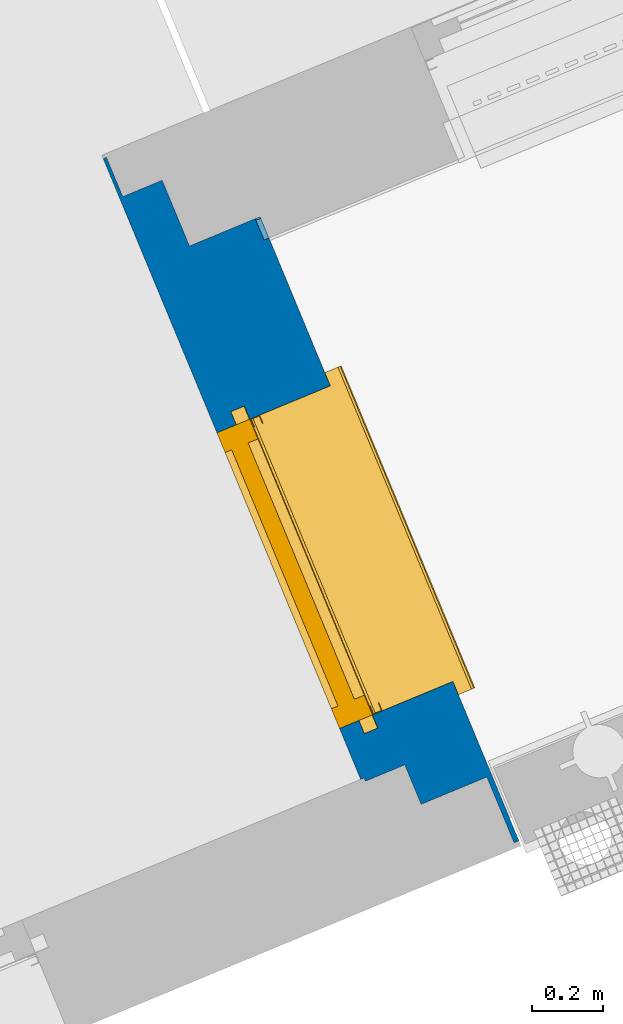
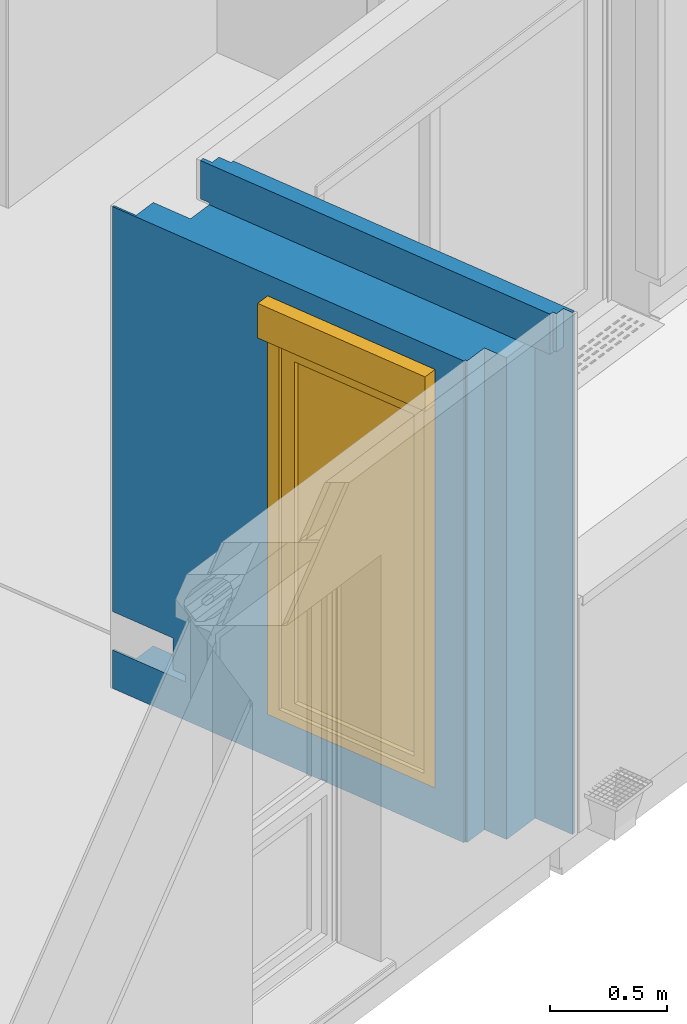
# One storey, part 4 of 91: 1 wall, 1 window, 1 opening.
"""IFC2X3 building model written with IfcOpenShell, lengths in metres."""

from ifc_helpers import new_model, entity, si_unit, converted_unit, derived_unit, money_unit, direction, frame, origin_with_axes, place, context, subcontext, project, spatial, open_shell, faceted_brep, surface_model, source, transform, mapped, material, material_list, type_object, element, fill, save


model = new_model("IFC2X3")

# Units and contexts
model_context = context("Model", 3, precision=1e-05, world=origin_with_axes(), true_north=direction((0.0, 1.0)))
body_context = subcontext(model_context, "Body", "Model", "MODEL_VIEW")
ifc_project = project(units=[si_unit("LENGTHUNIT", "METRE"), si_unit("AREAUNIT", "SQUARE_METRE"), si_unit("VOLUMEUNIT", "CUBIC_METRE"), converted_unit("PLANEANGLEUNIT", "DEGREE", entity("IfcPlaneAngleMeasure", 0.0174532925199), si_unit("PLANEANGLEUNIT", "RADIAN"), dimensions=[0, 0, 0, 0, 0, 0, 0]), si_unit("SOLIDANGLEUNIT", "STERADIAN"), money_unit("EUR"), converted_unit("TIMEUNIT", "Year", entity("IfcTimeMeasure", 31556926.0), si_unit("TIMEUNIT", "SECOND"), dimensions=[0, 0, 1, 0, 0, 0, 0]), si_unit("MASSUNIT", "GRAM", prefix="KILO"), si_unit("THERMODYNAMICTEMPERATUREUNIT", "DEGREE_CELSIUS"), si_unit("LUMINOUSINTENSITYUNIT", "LUMEN"), si_unit("ENERGYUNIT", "JOULE", prefix="MEGA"), derived_unit("THERMALCONDUCTANCEUNIT", [(si_unit("POWERUNIT", "WATT"), 1), (si_unit("LENGTHUNIT", "METRE"), -1), (si_unit("THERMODYNAMICTEMPERATUREUNIT", "KELVIN"), -1)]), derived_unit("SPECIFICHEATCAPACITYUNIT", [(si_unit("ENERGYUNIT", "JOULE"), 1), (si_unit("MASSUNIT", "GRAM", prefix="KILO"), -1), (si_unit("THERMODYNAMICTEMPERATUREUNIT", "KELVIN"), -1)]), derived_unit("MASSDENSITYUNIT", [(si_unit("MASSUNIT", "GRAM", prefix="KILO"), 1), (si_unit("VOLUMEUNIT", "CUBIC_METRE"), -1)])], contexts=[model_context])

# Site, building, storey
site_placement = place(None, origin_with_axes())
site = spatial("IfcSite", under=ifc_project, at=site_placement, Name="Site", CompositionType="ELEMENT")
building_placement = place(site_placement, origin_with_axes())
building = spatial("IfcBuilding", under=site, at=building_placement, Name="Bâtiment", CompositionType="ELEMENT")
storey_placement = place(building_placement, frame((0.0, 0.0, 5.44), z_axis=(0.0, 0.0, 1.0), x_axis=(1.0, 0.0, 0.0)))
storey = spatial("IfcBuildingStorey", under=building, at=storey_placement, Name="R+2", CompositionType="ELEMENT", Elevation=5.44)

# Wall, opening, window
ifc_material_1 = material(Name="Finition int - Plaque de plâtre")
ifc_material_2 = material(Name="Isolation - Polystyrène extrudé")
ifc_material_3 = material(Name="Bloc ELITHERM")
ifc_material_4 = material(Name="Isolation - Polystyrène expansé")
ifc_material_5 = material(Name="Mortier")
ifc_material_6 = material(Name="Béton cellulaire")
ifc_material_7 = material(Name="Finition ext - Crépis")
ifc_material_list = material_list([ifc_material_1, ifc_material_2, ifc_material_3, ifc_material_4, ifc_material_5, ifc_material_6, ifc_material_7])
wall_type = type_object("IfcWallType", Name="Mur ALKERN + planelle 21 345 x 2720", PredefinedType="USERDEFINED")
wall_placement = place(storey_placement, frame((-27.3385744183, -27.0795519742, 0.0), z_axis=(0.0, 0.0, 1.0), x_axis=(-0.383112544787, 0.923701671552, 0.0)))
wall = element("IfcWall", 1, at=wall_placement, inside=storey, type_object=wall_type, material=ifc_material_list, Name="Mue bloc ALKERN isolé", ObjectType="SOLIDWALL", context=body_context, shape_type="Brep", body=[
    faceted_brep([(1.84231110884, 0.335000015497, 0.2), (1.84231110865, 0.335000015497, 0.229999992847), (1.84231110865, 0.335000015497, 0.235000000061), (1.9100000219, 0.335000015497, 0.235000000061), (1.9100000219, 0.335000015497, 0.4), (1.91500002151, 0.335000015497, 0.4), (2.11499999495, 0.335000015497, 0.399999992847), (2.23500001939, 0.335000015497, 0.399999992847), (2.23500001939, 0.335000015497, 2.51), (0.344999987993, 0.335000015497, 2.51), (0.344999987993, 0.335000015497, 0.0), (2.23500001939, 0.335000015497, 0.0), (2.23500001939, 0.335000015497, 0.109999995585), (2.23500001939, 0.335000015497, 0.2), (2.11499999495, 0.335000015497, 0.2), (1.91500000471, 0.335000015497, 0.2), (1.90500004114, 0.335000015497, 0.200000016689), (1.84731110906, 0.335000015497, 0.2), (1.40000000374, 0.335000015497, 2.4), (1.40000000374, 0.335000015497, 2.22), (1.40000000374, 0.335000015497, 0.22), (0.500000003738, 0.335000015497, 0.22), (0.500000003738, 0.335000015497, 2.22), (0.500000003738, 0.335000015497, 2.4), (1.84231110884, 0.34499998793, 0.2), (1.84231110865, 0.34499998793, 0.229999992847), (1.84231110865, 0.34499998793, 0.235000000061), (1.9100000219, 0.34499998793, 0.235000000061), (1.9100000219, 0.34499998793, 0.4), (1.91500002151, 0.34499998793, 0.4), (2.11499999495, 0.34499998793, 0.399999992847), (2.23500001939, 0.34499998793, 0.399999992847), (2.23500001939, 0.34499998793, 2.51), (0.344999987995, 0.34499998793, 2.51), (0.344999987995, 0.34499998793, 0.0), (2.23500001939, 0.34499998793, 0.0), (2.23500001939, 0.34499998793, 0.109999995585), (2.23500001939, 0.34499998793, 0.2), (2.11499999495, 0.34499998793, 0.2), (1.91500000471, 0.34499998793, 0.2), (1.90500004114, 0.34499998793, 0.200000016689), (1.84731110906, 0.34499998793, 0.2), (1.40000000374, 0.34499998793, 2.4), (1.40000000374, 0.34499998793, 2.22), (1.40000000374, 0.34499998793, 0.22), (0.500000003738, 0.34499998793, 0.22), (0.500000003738, 0.34499998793, 2.22), (0.500000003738, 0.34499998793, 2.4)], [[[0, 1, 2, 3, 4, 5, 6, 7, 8, 9, 10, 11, 12, 13, 14, 15, 16, 17], [18, 19, 20, 21, 22, 23]], [[1, 0, 24, 25]], [[1, 25, 26, 2]], [[2, 26, 27, 3]], [[3, 27, 28, 4]], [[4, 28, 29, 5]], [[29, 30, 6, 5]], [[7, 6, 30, 31]], [[8, 7, 31, 32]], [[32, 33, 9, 8]], [[9, 33, 34, 10]], [[11, 10, 34, 35]], [[12, 11, 35, 36]], [[13, 12, 36, 37]], [[14, 13, 37, 38]], [[15, 14, 38, 39]], [[16, 15, 39, 40]], [[17, 16, 40, 41]], [[17, 41, 24, 0]], [[19, 18, 42, 43]], [[19, 43, 44, 20]], [[20, 44, 45, 21]], [[46, 22, 21, 45]], [[23, 22, 46, 47]], [[18, 23, 47, 42]], [[39, 38, 37, 36, 35, 34, 33, 32, 31, 30, 29, 28, 27, 26, 25, 24, 41, 40], [47, 46, 45, 44, 43, 42]]]),
    faceted_brep([(0.335000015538, 0.215000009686, 0.0), (2.11500001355, 0.215000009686, 0.0), (2.11500001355, 0.215000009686, 0.109999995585), (2.11499999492, 0.215000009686, 0.2), (1.91500000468, 0.215000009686, 0.2), (1.90500004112, 0.215000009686, 0.200000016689), (1.84731110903, 0.215000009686, 0.2), (1.84231110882, 0.215000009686, 0.2), (1.84231110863, 0.215000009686, 0.229999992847), (1.84231110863, 0.215000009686, 0.235000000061), (1.91000002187, 0.215000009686, 0.235000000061), (1.91000002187, 0.215000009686, 0.4), (1.91500002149, 0.215000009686, 0.4), (2.11500001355, 0.215000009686, 0.399999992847), (2.11500001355, 0.215000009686, 2.51), (0.335000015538, 0.215000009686, 2.51), (1.40000000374, 0.215000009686, 0.16), (0.500000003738, 0.215000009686, 0.16), (0.500000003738, 0.215000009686, 0.22), (0.500000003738, 0.215, 2.22), (0.500000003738, 0.215, 2.4), (1.40000000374, 0.215, 2.4), (1.40000000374, 0.215, 2.22), (1.40000000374, 0.215000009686, 0.22), (0.33500001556, 0.335000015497, 0.0), (2.11500001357, 0.335000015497, 0.0), (2.11500001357, 0.335000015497, 0.109999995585), (2.11499999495, 0.335000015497, 0.2), (1.91500000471, 0.335000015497, 0.2), (1.90500004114, 0.335000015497, 0.200000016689), (1.84731110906, 0.335000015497, 0.2), (1.84231110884, 0.335000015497, 0.2), (1.84231110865, 0.335000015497, 0.229999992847), (1.84231110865, 0.335000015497, 0.235000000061), (1.9100000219, 0.335000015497, 0.235000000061), (1.9100000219, 0.335000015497, 0.4), (1.91500002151, 0.335000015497, 0.4), (2.11500001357, 0.335000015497, 0.399999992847), (2.11500001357, 0.335000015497, 2.51), (0.33500001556, 0.335000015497, 2.51), (1.40000000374, 0.286, 0.16), (0.500000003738, 0.286, 0.16), (0.500000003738, 0.245, 0.22), (0.500000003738, 0.286, 0.22), (0.500000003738, 0.245, 2.22), (0.500000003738, 0.335000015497, 2.22), (0.500000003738, 0.335000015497, 2.4), (1.40000000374, 0.335000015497, 2.4), (1.40000000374, 0.335000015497, 2.22), (1.40000000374, 0.245, 2.22), (1.40000000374, 0.245, 0.22), (1.40000000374, 0.286, 0.22), (1.40000000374, 0.335000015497, 0.22), (0.500000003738, 0.335000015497, 0.22)], [[[0, 1, 2, 3, 4, 5, 6, 7, 8, 9, 10, 11, 12, 13, 14, 15], [16, 17, 18, 19, 20, 21, 22, 23]], [[24, 25, 1, 0]], [[25, 26, 2, 1]], [[26, 27, 3, 2]], [[27, 28, 4, 3]], [[28, 29, 5, 4]], [[29, 30, 6, 5]], [[31, 7, 6, 30]], [[31, 32, 8, 7]], [[33, 9, 8, 32]], [[34, 10, 9, 33]], [[35, 11, 10, 34]], [[36, 12, 11, 35]], [[36, 37, 13, 12]], [[37, 38, 14, 13]], [[15, 14, 38, 39]], [[24, 0, 15, 39]], [[17, 16, 40, 41]], [[42, 18, 17, 41, 43]], [[18, 42, 44, 19]], [[44, 45, 46, 20, 19]], [[20, 46, 47, 21]], [[47, 48, 49, 22, 21]], [[50, 23, 22, 49]], [[16, 23, 50, 51, 40]], [[35, 34, 33, 32, 31, 30, 29, 28, 27, 26, 25, 24, 39, 38, 37, 36], [52, 48, 47, 46, 45, 53]], [[51, 43, 41, 40]], [[42, 43, 53, 45, 44]], [[51, 50, 49, 48, 52]], [[43, 51, 52, 53]]]),
    faceted_brep([(1.90500004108, 0.015, 0.200000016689), (1.84731110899, 0.015, 0.2), (1.84231110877, 0.015, 0.2), (1.84231110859, 0.015, 0.229999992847), (1.84231110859, 0.015, 0.235000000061), (1.91000002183, 0.015, 0.235000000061), (1.91000002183, 0.015, 0.4), (1.91500002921, 0.015, 0.399999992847), (1.91500000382, 0.015, 2.50999999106), (0.214999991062, 0.015, 2.50999999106), (0.214999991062, 0.015, 0.0), (1.91500000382, 0.015, 0.0), (1.9150000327, 0.015, 0.109999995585), (1.91500000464, 0.015, 0.2), (1.40000000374, 0.015, 0.16), (0.500000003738, 0.015, 0.16), (0.500000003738, 0.015, 0.22), (0.500000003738, 0.015, 2.22), (1.40000000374, 0.015, 2.22), (1.40000000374, 0.015, 0.22), (1.90500004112, 0.214999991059, 0.200000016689), (1.84731110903, 0.214999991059, 0.2), (1.84231110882, 0.214999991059, 0.2), (1.84231110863, 0.214999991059, 0.229999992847), (1.84231110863, 0.214999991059, 0.235000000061), (1.91000002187, 0.214999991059, 0.235000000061), (1.91000002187, 0.214999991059, 0.4), (1.91500002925, 0.214999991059, 0.399999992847), (1.91500000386, 0.214999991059, 2.50999999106), (1.91500000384, 0.0829999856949, 2.50999999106), (0.214999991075, 0.0829999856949, 2.50999999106), (0.2149999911, 0.214999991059, 2.50999999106), (0.2149999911, 0.214999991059, 0.0), (1.91500000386, 0.214999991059, 0.0), (1.91500003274, 0.214999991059, 0.109999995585), (1.91500000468, 0.214999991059, 0.2), (1.40000000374, 0.214999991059, 0.16), (0.500000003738, 0.214999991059, 0.16), (0.500000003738, 0.214999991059, 0.22), (0.500000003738, 0.214999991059, 2.22), (1.40000000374, 0.214999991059, 2.22), (1.40000000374, 0.214999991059, 0.22)], [[[0, 1, 2, 3, 4, 5, 6, 7, 8, 9, 10, 11, 12, 13], [14, 15, 16, 17, 18, 19]], [[1, 0, 20, 21]], [[1, 21, 22, 2]], [[3, 2, 22, 23]], [[3, 23, 24, 4]], [[4, 24, 25, 5]], [[5, 25, 26, 6]], [[7, 6, 26, 27]], [[27, 28, 29, 8, 7]], [[29, 30, 9, 8]], [[31, 32, 10, 9, 30]], [[11, 10, 32, 33]], [[12, 11, 33, 34]], [[13, 12, 34, 35]], [[0, 13, 35, 20]], [[15, 14, 36, 37]], [[38, 16, 15, 37]], [[16, 38, 39, 17]], [[17, 39, 40, 18]], [[41, 19, 18, 40]], [[14, 19, 41, 36]], [[21, 20, 35, 34, 33, 32, 31, 28, 27, 26, 25, 24, 23, 22], [36, 41, 40, 39, 38, 37]], [[28, 31, 30, 29]]]),
    faceted_brep([(0.0830000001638, 0.0630000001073, 2.51999999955), (1.96300002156, 0.0630000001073, 2.51999999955), (1.96300002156, 0.0630000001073, 2.72), (0.0830000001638, 0.0630000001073, 2.72), (0.0830000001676, 0.083000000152, 2.51999999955), (1.96300002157, 0.083000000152, 2.51999999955), (1.96300002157, 0.083000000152, 2.72), (0.0830000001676, 0.083000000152, 2.72)], [[[0, 1, 2, 3]], [[4, 5, 1, 0]], [[5, 6, 2, 1]], [[3, 2, 6, 7]], [[4, 0, 3, 7]], [[7, 6, 5, 4]]]),
    faceted_brep([(1.91500002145, 0.015, 2.51), (1.91500002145, 0.015, 2.52), (0.0830000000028, 0.015, 2.52), (0.0830000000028, 0.015, 2.51), (1.91500002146, 0.083, 2.52), (1.91500002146, 0.083, 2.51), (0.0830000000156, 0.083, 2.52), (0.0830000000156, 0.083, 2.51)], [[[0, 1, 2, 3]], [[4, 1, 0, 5]], [[1, 4, 6, 2]], [[3, 2, 6, 7]], [[5, 0, 3, 7]], [[4, 5, 7, 6]]]),
    faceted_brep([(1.91500002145, 0.015, 2.51999999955), (1.91500002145, 0.015, 2.72), (0.0629999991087, 0.015, 2.72), (0.0629999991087, 0.015, 2.51999999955), (1.91500002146, 0.0629999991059, 2.72), (1.91500002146, 0.0629999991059, 2.51999999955), (0.0629999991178, 0.0629999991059, 2.72), (0.0629999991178, 0.0629999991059, 2.51999999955)], [[[0, 1, 2, 3]], [[4, 1, 0, 5]], [[1, 4, 6, 2]], [[3, 2, 6, 7]], [[5, 0, 3, 7]], [[4, 5, 7, 6]]]),
    faceted_brep([(0.0149999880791, 0.0, 2.72), (0.0149999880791, 0.0, 2.51999999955), (0.0149999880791, 0.0, 2.50999999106), (0.0149999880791, 0.0, 0.0), (0.215000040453, 0.0, 0.0), (0.215000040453, 0.0, 0.1), (1.91495017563, 0.0, 0.1), (1.91495017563, 0.0, 0.0), (1.91500000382, 0.0, 0.0), (1.91500003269, 0.0, 0.109999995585), (1.91500000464, 0.0, 0.2), (1.90500004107, 0.0, 0.200000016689), (1.84731110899, 0.0, 0.2), (1.84231110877, 0.0, 0.2), (1.84231110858, 0.0, 0.229999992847), (1.84231110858, 0.0, 0.235000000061), (1.91000002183, 0.0, 0.235000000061), (1.91000004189, 0.0, 0.399999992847), (1.87500002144, 0.0, 0.4), (1.85000002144, 0.0, 0.4), (1.85000002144, 0.0, 2.50999999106), (1.85000002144, 0.0, 2.51999999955), (1.85000002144, 0.0, 2.72), (1.40000000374, 0.0, 0.16), (0.500000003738, 0.0, 0.16), (0.500000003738, 0.0, 0.22), (0.500000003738, 0.0, 2.22), (1.40000000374, 0.0, 2.22), (1.40000000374, 0.0, 0.22), (0.0149999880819, 0.0149999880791, 2.72), (0.0149999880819, 0.0149999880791, 2.51999999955), (0.0149999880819, 0.0149999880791, 2.50999999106), (0.0149999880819, 0.0149999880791, 0.0), (0.215000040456, 0.0150000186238, 0.0), (0.215000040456, 0.0150000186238, 0.1), (1.91495017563, 0.0150000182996, 0.1), (1.91495017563, 0.0150000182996, 0.0), (1.91500000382, 0.0149999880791, 0.0), (1.9150000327, 0.0149999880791, 0.109999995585), (1.91500000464, 0.0149999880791, 0.2), (1.90500004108, 0.0149999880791, 0.200000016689), (1.84731110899, 0.0149999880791, 0.2), (1.84231110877, 0.0149999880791, 0.2), (1.84231110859, 0.0149999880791, 0.229999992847), (1.84231110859, 0.0149999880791, 0.235000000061), (1.91000002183, 0.0149999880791, 0.235000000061), (1.9100000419, 0.0149999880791, 0.399999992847), (1.87500002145, 0.0149999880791, 0.4), (1.85000002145, 0.0149999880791, 0.4), (1.85000002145, 0.0149999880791, 2.50999999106), (1.85000002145, 0.0149999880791, 2.51999999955), (1.85000002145, 0.0149999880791, 2.72), (1.40000000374, 0.0149999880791, 0.16), (0.500000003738, 0.0149999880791, 0.16), (0.500000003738, 0.0150000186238, 0.22), (0.500000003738, 0.0150000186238, 2.22), (1.40000000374, 0.0150000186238, 2.22), (1.40000000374, 0.0150000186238, 0.22)], [[[0, 1, 2, 3, 4, 5, 6, 7, 8, 9, 10, 11, 12, 13, 14, 15, 16, 17, 18, 19, 20, 21, 22], [23, 24, 25, 26, 27, 28]], [[0, 29, 30, 1]], [[30, 31, 2, 1]], [[31, 32, 3, 2]], [[3, 32, 33, 4]], [[33, 34, 5, 4]], [[34, 35, 6, 5]], [[35, 36, 7, 6]], [[37, 8, 7, 36]], [[9, 8, 37, 38]], [[10, 9, 38, 39]], [[11, 10, 39, 40]], [[12, 11, 40, 41]], [[12, 41, 42, 13]], [[14, 13, 42, 43]], [[14, 43, 44, 15]], [[15, 44, 45, 16]], [[17, 16, 45, 46]], [[18, 17, 46, 47]], [[18, 47, 48, 19]], [[20, 19, 48, 49]], [[21, 20, 49, 50]], [[22, 21, 50, 51]], [[51, 29, 0, 22]], [[24, 23, 52, 53]], [[54, 25, 24, 53]], [[25, 54, 55, 26]], [[26, 55, 56, 27]], [[57, 28, 27, 56]], [[23, 28, 57, 52]], [[40, 39, 38, 37, 36, 35, 34, 33, 32, 31, 30, 29, 51, 50, 49, 48, 47, 46, 45, 44, 43, 42, 41], [52, 57, 56, 55, 54, 53]]]),
])
opening_placement = place(wall_placement, frame((0.950000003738, 0.0, 0.22), z_axis=(0.0, 0.0, 1.0), x_axis=(1.0, 0.0, 0.0)))
opening = element("IfcOpeningElement", 2, at=opening_placement, cuts=wall, Name="MEN 87", context=body_context, shape_type="Brep", body=[
    faceted_brep([(-0.45, 0.83499998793, 0.0), (0.45, 0.83499998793, 0.0), (0.45, 0.245, 0.0), (-0.45, 0.245, 0.0), (-0.45, 0.83499998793, 2.0), (0.45, 0.83499998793, 2.0), (0.45, 0.245, 2.0), (-0.45, 0.245, 2.0)], [[[0, 1, 2, 3]], [[0, 4, 5, 1]], [[1, 5, 6, 2]], [[3, 2, 6, 7]], [[4, 0, 3, 7]], [[5, 4, 7, 6]]]),
    faceted_brep([(-0.45, -0.34499998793, 0.0), (-0.45, -0.34499998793, 2.0), (-0.45, 0.245, 2.0), (-0.45, 0.245, 0.0), (0.45, -0.34499998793, 0.0), (0.45, -0.34499998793, 2.0), (0.45, 0.245, 2.0), (0.45, 0.245, 0.0)], [[[0, 1, 2, 3]], [[0, 4, 5, 1]], [[1, 5, 6, 2]], [[3, 2, 6, 7]], [[4, 0, 3, 7]], [[5, 4, 7, 6]]]),
    faceted_brep([(-0.45, -0.34499998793, 0.0), (-0.45, -0.34499998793, 2.0), (-0.45, 0.245, 2.0), (-0.45, 0.245, 0.0), (0.45, -0.34499998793, 0.0), (0.45, -0.34499998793, 2.0), (0.45, 0.245, 2.0), (0.45, 0.245, 0.0)], [[[0, 1, 2, 3]], [[0, 4, 5, 1]], [[1, 5, 6, 2]], [[3, 2, 6, 7]], [[4, 0, 3, 7]], [[5, 4, 7, 6]]]),
    faceted_brep([(-0.45, 0.80499998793, 2.0), (0.45, 0.80499998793, 2.0), (0.45, 0.215, 2.0), (-0.45, 0.215, 2.0), (-0.45, 0.80499998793, 2.18), (0.45, 0.80499998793, 2.18), (0.45, 0.215, 2.18), (-0.45, 0.215, 2.18)], [[[0, 1, 2, 3]], [[0, 4, 5, 1]], [[1, 5, 6, 2]], [[3, 2, 6, 7]], [[4, 0, 3, 7]], [[5, 4, 7, 6]]]),
    faceted_brep([(-0.45, -0.30399998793, 0.0), (0.45, -0.30399998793, 0.0), (0.45, 0.286, 0.0), (-0.45, 0.286, 0.0), (-0.45, -0.30399998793, -0.06), (0.45, -0.30399998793, -0.06), (0.45, 0.286, -0.06), (-0.45, 0.286, -0.06)], [[[0, 1, 2, 3]], [[0, 4, 5, 1]], [[1, 5, 6, 2]], [[3, 2, 6, 7]], [[4, 0, 3, 7]], [[5, 4, 7, 6]]]),
])
window_style = type_object("IfcWindowStyle", Name="Baie générique 2017 v2", ConstructionType="NOTDEFINED", OperationType="NOTDEFINED", ParameterTakesPrecedence=False, Sizeable=False)
shared_shape = source(origin_with_axes(), body_context, "Body", "SurfaceModel", [
    faceted_brep([(-0.45, 0.1, 0.0), (0.45, 0.1, 0.0), (0.45, 0.0, 0.0), (-0.45, 0.0, 0.0), (-0.45, 0.1, 2.0), (0.45, 0.1, 2.0), (-0.39, 0.1, 0.05), (0.39, 0.1, 0.05), (0.39, 0.1, 1.95), (-0.39, 0.1, 1.95), (0.45, 0.0, 2.0), (-0.45, 0.0, 2.0), (-0.39, 0.0, 0.05), (-0.39, 0.0, 1.95), (0.39, 0.0, 1.95), (0.39, 0.0, 0.05)], [[[0, 1, 2, 3]], [[0, 4, 5, 1], [6, 7, 8, 9]], [[1, 5, 10, 2]], [[3, 2, 10, 11], [12, 13, 14, 15]], [[4, 0, 3, 11]], [[5, 4, 11, 10]], [[7, 6, 12, 15]], [[8, 7, 15, 14]], [[9, 8, 14, 13]], [[6, 9, 13, 12]]]),
    faceted_brep([(0.39, 0.08, 1.95), (0.39, 0.08, 0.05), (-0.39, 0.08, 0.05), (-0.39, 0.08, 1.95), (0.32, 0.08, 1.88), (-0.32, 0.08, 1.88), (-0.32, 0.08, 0.1), (0.32, 0.08, 0.1), (0.39, 0.03, 1.95), (0.39, 0.03, 0.05), (-0.39, 0.03, 0.05), (-0.39, 0.03, 1.95), (0.32, 0.03, 1.88), (-0.32, 0.03, 1.88), (-0.32, 0.03, 0.1), (0.32, 0.03, 0.1)], [[[0, 1, 2, 3], [4, 5, 6, 7]], [[1, 0, 8, 9]], [[10, 2, 1, 9]], [[11, 3, 2, 10]], [[0, 3, 11, 8]], [[5, 4, 12, 13]], [[14, 6, 5, 13]], [[15, 7, 6, 14]], [[4, 7, 15, 12]], [[11, 10, 9, 8], [15, 14, 13, 12]]]),
    surface_model("IfcShellBasedSurfaceModel", [(-0.39, 0.08, 0.05), (-0.39, 0.055, 0.05), (-0.39, 0.055, 1.95), (-0.39, 0.08, 1.95)], [open_shell([[[0, 1, 2, 3]]])]),
    surface_model("IfcShellBasedSurfaceModel", [(0.39, 0.08, 0.05), (0.39, 0.055, 0.05), (0.39, 0.055, 1.95), (0.39, 0.08, 1.95)], [open_shell([[[0, 1, 2, 3]]])]),
    surface_model("IfcShellBasedSurfaceModel", [(-0.39, 0.08, 0.05), (-0.39, 0.055, 0.05), (0.39, 0.055, 0.05), (0.39, 0.08, 0.05)], [open_shell([[[0, 1, 2, 3]]])]),
    surface_model("IfcShellBasedSurfaceModel", [(-0.39, 0.08, 1.95), (-0.39, 0.055, 1.95), (0.39, 0.055, 1.95), (0.39, 0.08, 1.95)], [open_shell([[[0, 1, 2, 3]]])]),
    surface_model("IfcShellBasedSurfaceModel", [(-0.39, 0.055, 0.05), (-0.39, 0.03, 0.05), (-0.39, 0.03, 1.95), (-0.39, 0.055, 1.95)], [open_shell([[[0, 1, 2, 3]]])]),
    surface_model("IfcShellBasedSurfaceModel", [(0.39, 0.055, 0.05), (0.39, 0.03, 0.05), (0.39, 0.03, 1.95), (0.39, 0.055, 1.95)], [open_shell([[[0, 1, 2, 3]]])]),
    surface_model("IfcShellBasedSurfaceModel", [(-0.39, 0.055, 0.05), (-0.39, 0.03, 0.05), (0.39, 0.03, 0.05), (0.39, 0.055, 0.05)], [open_shell([[[0, 1, 2, 3]]])]),
    surface_model("IfcShellBasedSurfaceModel", [(-0.39, 0.055, 1.95), (-0.39, 0.03, 1.95), (0.39, 0.03, 1.95), (0.39, 0.055, 1.95)], [open_shell([[[0, 1, 2, 3]]])]),
    faceted_brep([(-0.32, 0.0575, 0.1), (0.32, 0.0575, 0.1), (0.32, 0.0525, 0.1), (-0.32, 0.0525, 0.1), (-0.32, 0.0575, 1.88), (0.32, 0.0575, 1.88), (0.32, 0.0525, 1.88), (-0.32, 0.0525, 1.88)], [[[0, 1, 2, 3]], [[0, 4, 5, 1]], [[1, 5, 6, 2]], [[3, 2, 6, 7]], [[4, 0, 3, 7]], [[5, 4, 7, 6]]]),
    faceted_brep([(-0.45, -0.03, 0.0), (-0.425, -0.03, 0.0), (-0.425, -0.03, 2.0), (-0.45, -0.03, 2.0), (-0.45, -0.002, 0.0), (-0.425, -0.002, 0.0), (-0.425, -0.004, 0.0), (-0.448, -0.004, 0.0), (-0.448, -0.028, 0.0), (-0.425, -0.028, 0.0), (-0.425, -0.028, 2.0), (-0.448, -0.028, 2.0), (-0.448, -0.004, 2.0), (-0.425, -0.004, 2.0), (-0.425, -0.002, 2.0), (-0.45, -0.002, 2.0)], [[[0, 1, 2, 3]], [[0, 4, 5, 6, 7, 8, 9, 1]], [[1, 9, 10, 2]], [[3, 2, 10, 11, 12, 13, 14, 15]], [[4, 0, 3, 15]], [[5, 4, 15, 14]], [[6, 5, 14, 13]], [[7, 6, 13, 12]], [[8, 7, 12, 11]], [[9, 8, 11, 10]]]),
    faceted_brep([(0.45, -0.03, 0.0), (0.45, -0.03, 2.0), (0.425, -0.03, 2.0), (0.425, -0.03, 0.0), (0.45, -0.002, 0.0), (0.45, -0.002, 2.0), (0.425, -0.002, 2.0), (0.425, -0.004, 2.0), (0.448, -0.004, 2.0), (0.448, -0.028, 2.0), (0.425, -0.028, 2.0), (0.425, -0.028, 0.0), (0.448, -0.028, 0.0), (0.448, -0.004, 0.0), (0.425, -0.004, 0.0), (0.425, -0.002, 0.0)], [[[0, 1, 2, 3]], [[4, 5, 1, 0]], [[1, 5, 6, 7, 8, 9, 10, 2]], [[3, 2, 10, 11]], [[0, 3, 11, 12, 13, 14, 15, 4]], [[15, 6, 5, 4]], [[14, 7, 6, 15]], [[13, 8, 7, 14]], [[12, 9, 8, 13]], [[11, 10, 9, 12]]]),
    faceted_brep([(0.448, -0.028, 2.0), (-0.448, -0.028, 2.0), (-0.448, -0.028, 2.178), (0.448, -0.028, 2.178), (0.448, -0.03, 2.0), (-0.448, -0.03, 2.0), (-0.448, -0.03, 2.18), (-0.448, 0.17, 2.18), (-0.448, 0.17, 2.0), (-0.448, 0.168, 2.0), (-0.448, 0.168, 2.178), (0.448, 0.168, 2.178), (0.448, 0.168, 2.0), (0.448, 0.17, 2.0), (0.448, 0.17, 2.18), (0.448, -0.03, 2.18)], [[[0, 1, 2, 3]], [[4, 5, 1, 0]], [[1, 5, 6, 7, 8, 9, 10, 2]], [[3, 2, 10, 11]], [[0, 3, 11, 12, 13, 14, 15, 4]], [[15, 6, 5, 4]], [[14, 7, 6, 15]], [[13, 8, 7, 14]], [[12, 9, 8, 13]], [[11, 10, 9, 12]]]),
    faceted_brep([(0.448, 0.0724697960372, 2.07436337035), (0.448, 0.08, 2.09), (0.448, 0.0724697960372, 2.10563662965), (0.448, 0.0555495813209, 2.10949855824), (0.448, 0.041980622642, 2.09867767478), (0.448, 0.041980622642, 2.08132232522), (0.448, 0.0555495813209, 2.07050144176), (-0.448, 0.0724697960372, 2.07436337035), (-0.448, 0.08, 2.09), (-0.448, 0.0724697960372, 2.10563662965), (-0.448, 0.0555495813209, 2.10949855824), (-0.448, 0.041980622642, 2.09867767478), (-0.448, 0.041980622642, 2.08132232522), (-0.448, 0.0555495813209, 2.07050144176)], [[[0, 1, 2, 3, 4, 5, 6]], [[0, 7, 8, 1]], [[1, 8, 9, 2]], [[2, 9, 10, 3]], [[3, 10, 11, 4]], [[4, 11, 12, 5]], [[5, 12, 13, 6]], [[6, 13, 7, 0]], [[7, 13, 12, 11, 10, 9, 8]]]),
    faceted_brep([(0.438, 0.130275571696, 2.05615706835), (0.438, 0.138, 2.09), (0.438, 0.130275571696, 2.12384293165), (0.438, 0.108632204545, 2.15098285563), (0.438, 0.0773566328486, 2.16604437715), (0.438, 0.0426433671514, 2.16604437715), (0.438, 0.011367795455, 2.15098285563), (0.438, -0.0102755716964, 2.12384293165), (0.438, -0.018, 2.09), (0.438, -0.0102755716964, 2.05615706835), (0.438, 0.011367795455, 2.02901714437), (0.438, 0.0426433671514, 2.01395562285), (0.438, 0.0773566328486, 2.01395562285), (0.438, 0.108632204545, 2.02901714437), (-0.438, 0.130275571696, 2.05615706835), (-0.438, 0.138, 2.09), (-0.438, 0.130275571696, 2.12384293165), (-0.438, 0.108632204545, 2.15098285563), (-0.438, 0.0773566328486, 2.16604437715), (-0.438, 0.0426433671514, 2.16604437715), (-0.438, 0.011367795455, 2.15098285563), (-0.438, -0.0102755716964, 2.12384293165), (-0.438, -0.018, 2.09), (-0.438, -0.0102755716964, 2.05615706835), (-0.438, 0.011367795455, 2.02901714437), (-0.438, 0.0426433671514, 2.01395562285), (-0.438, 0.0773566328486, 2.01395562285), (-0.438, 0.108632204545, 2.02901714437)], [[[0, 1, 2, 3, 4, 5, 6, 7, 8, 9, 10, 11, 12, 13]], [[0, 14, 15, 1]], [[1, 15, 16, 2]], [[2, 16, 17, 3]], [[3, 17, 18, 4]], [[4, 18, 19, 5]], [[5, 19, 20, 6]], [[6, 20, 21, 7]], [[7, 21, 22, 8]], [[8, 22, 23, 9]], [[9, 23, 24, 10]], [[10, 24, 25, 11]], [[11, 25, 26, 12]], [[12, 26, 27, 13]], [[13, 27, 14, 0]], [[14, 27, 26, 25, 24, 23, 22, 21, 20, 19, 18, 17, 16, 15]]]),
    faceted_brep([(0.45, 0.17, 2.0), (0.448, 0.17, 2.0), (0.448, 0.17, 2.18), (0.45, 0.17, 2.18), (0.45, -0.03, 2.0), (0.448, -0.03, 2.0), (0.448, -0.03, 2.18), (0.45, -0.03, 2.18)], [[[0, 1, 2, 3]], [[4, 5, 1, 0]], [[1, 5, 6, 2]], [[3, 2, 6, 7]], [[0, 3, 7, 4]], [[7, 6, 5, 4]]]),
    faceted_brep([(-0.448, 0.17, 2.0), (-0.45, 0.17, 2.0), (-0.45, 0.17, 2.18), (-0.448, 0.17, 2.18), (-0.448, -0.03, 2.0), (-0.45, -0.03, 2.0), (-0.45, -0.03, 2.18), (-0.448, -0.03, 2.18)], [[[0, 1, 2, 3]], [[4, 5, 1, 0]], [[1, 5, 6, 2]], [[3, 2, 6, 7]], [[0, 3, 7, 4]], [[7, 6, 5, 4]]]),
    faceted_brep([(0.448, -0.004, 2.0), (-0.448, -0.004, 2.0), (-0.448, 0.168, 2.0), (0.448, 0.168, 2.0), (0.448, -0.004, 2.002), (-0.448, -0.004, 2.002), (-0.448, 0.168, 2.002), (0.448, 0.168, 2.002)], [[[0, 1, 2, 3]], [[4, 5, 1, 0]], [[1, 5, 6, 2]], [[3, 2, 6, 7]], [[0, 3, 7, 4]], [[7, 6, 5, 4]]]),
    faceted_brep([(-0.438, -0.006, 2.0), (-0.438, -0.006, 2.09), (0.438, -0.006, 2.09), (0.438, -0.006, 2.0), (-0.438, -0.026, 2.0), (-0.438, -0.026, 2.09), (0.438, -0.026, 2.09), (0.438, -0.026, 2.0)], [[[0, 1, 2, 3]], [[1, 0, 4, 5]], [[2, 1, 5, 6]], [[3, 2, 6, 7]], [[4, 0, 3, 7]], [[5, 4, 7, 6]]]),
    faceted_brep([(0.45, -0.00167949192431, -0.01), (0.45, 0.0, -0.00373205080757), (0.49, 0.0, -0.00373205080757), (0.49, 0.001, 0.0), (-0.49, 0.001, 0.0), (-0.49, 0.0, -0.00373205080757), (-0.45, 0.0, -0.00373205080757), (-0.45, -0.00167949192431, -0.01), (0.45, -0.009, -0.0173205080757), (0.45, -0.019, -0.02), (0.45, -0.245, -0.02), (0.45, -0.245, -0.06), (0.45, 0.0, -0.06), (0.49, 0.0, -0.06), (0.49, 0.041, -0.06), (0.49, 0.041, 0.0), (-0.49, 0.041, 0.0), (-0.49, 0.041, -0.06), (-0.49, 0.0, -0.06), (-0.45, 0.0, -0.06), (-0.45, -0.245, -0.02), (-0.45, -0.019, -0.02), (-0.45, -0.009, -0.0173205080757), (-0.45, -0.245, -0.06), (-0.49, -0.245, -0.02), (-0.49, -0.285, -0.02), (0.49, -0.285, -0.02), (0.49, -0.245, -0.02), (0.49, -0.245, -0.06), (0.49, -0.275, -0.06), (-0.49, -0.275, -0.06), (-0.49, -0.245, -0.06), (-0.49, -0.295, -0.03), (-0.49, -0.292071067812, -0.0229289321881), (-0.49, -0.275, -0.05), (-0.49, -0.285, -0.05), (-0.49, -0.285, -0.06), (-0.49, -0.295, -0.06), (0.49, -0.292071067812, -0.0229289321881), (0.49, -0.295, -0.03), (0.49, -0.295, -0.06), (0.49, -0.285, -0.06), (0.49, -0.285, -0.05), (0.49, -0.275, -0.05)], [[[0, 1, 2, 3, 4, 5, 6, 7]], [[1, 0, 8, 9, 10, 11, 12]], [[13, 2, 1, 12]], [[2, 13, 14, 15, 3]], [[16, 4, 3, 15]], [[4, 16, 17, 18, 5]], [[5, 18, 19, 6]], [[20, 21, 22, 7, 6, 19, 23]], [[8, 0, 7, 22]], [[9, 8, 22, 21]], [[10, 9, 21, 20, 24, 25, 26, 27]], [[10, 27, 28, 11]], [[11, 28, 29, 30, 31, 23, 19, 18, 17, 14, 13, 12]], [[17, 16, 15, 14]], [[20, 23, 31, 24]], [[32, 33, 25, 24, 31, 30, 34, 35, 36, 37]], [[25, 33, 38, 26]], [[28, 27, 26, 38, 39, 40, 41, 42, 43, 29]], [[34, 30, 29, 43]], [[33, 32, 39, 38]], [[35, 34, 43, 42]], [[36, 35, 42, 41]], [[37, 36, 41, 40]], [[32, 37, 40, 39]]]),
])
window_placement = place(opening_placement, frame((-0.45, 0.0, 0.0), z_axis=(0.0, 0.0, 1.0), x_axis=(1.0, 0.0, 0.0)))
window = element("IfcWindow", 3, at=window_placement, inside=storey, type_object=window_style, Name="MEN 87", ObjectType="WINDOW", OverallHeight=2.0, OverallWidth=0.9, context=body_context, shape_type="MappedRepresentation", body=[
    mapped(shared_shape, transform((0.45, 0.245, 0.0))),
])
fill(opening, window)

save(model, "model.ifc")
